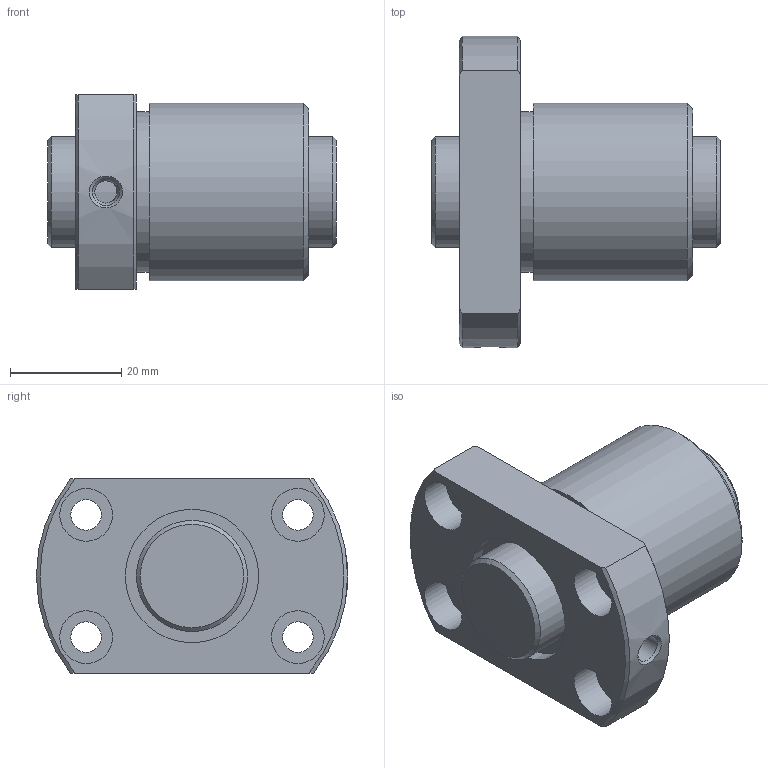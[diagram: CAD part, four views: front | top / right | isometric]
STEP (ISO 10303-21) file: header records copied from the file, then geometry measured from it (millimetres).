
FILE_DESCRIPTION(/* description */ ('STEP AP203'),/* implementation_level */ '2;1');
FILE_NAME(/* name */ 'DK2004-3RRG1+52LC0_000',/* time_stamp */ '2025-01-13T09:08:07+01:00',/* author */ ('License CC BY-ND 4.0'),/* organization */ ('CADENAS'),/* preprocessor_version */ 'ST-DEVELOPER v19.3',/* originating_system */ 'PARTsolutions',/* authorisation */ ' ');
FILE_SCHEMA (('CONFIG_CONTROL_DESIGN'));
Length unit declared in the file: millimetre
Products named in the file (3): DK2004-3RRG1+52LC0_000; DK 2004-3RR05200 Shaft; DK 2004-3RR0Nut
Assembly tree (2 placements, depth 2):
  DK2004-3RRG1+52LC0_000
    DK 2004-3RR05200 Shaft
    DK 2004-3RR0Nut
Bounding box: 52 x 56 x 35 mm (x, y, z)
Volume: 44609 mm3; surface area: 15703.8 mm2
Topology: 2 solids, 2 shells, 41 faces, 83 edges, 54 vertices
Faces by surface type: cylinder 18, plane 14, cone 9
Full cylindrical faces by diameter (mm): 4 x1, 4.917 x1, 5.5 x4, 9.5 x4, 20 x2, 24 x2, 28.8 x1, 32 x1
Entity records: 1087 total; most frequent: CARTESIAN_POINT 200, DIRECTION 180, ORIENTED_EDGE 120, AXIS2_PLACEMENT_3D 86, EDGE_LOOP 82, FACE_BOUND 82, EDGE_CURVE 60, VERTEX_POINT 52
